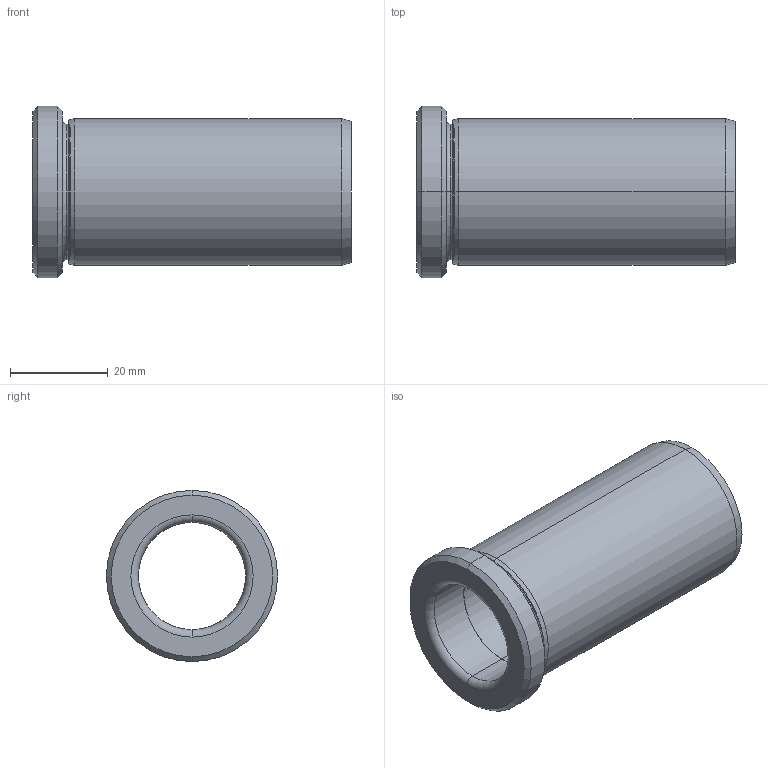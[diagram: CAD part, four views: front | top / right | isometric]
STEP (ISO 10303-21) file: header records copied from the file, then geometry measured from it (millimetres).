
FILE_DESCRIPTION (( 'STEP AP214' ), '1' );
FILE_NAME ('BRCVBG-22X65.STEP', '2020-07-21T12:26:10', ( '' ), ( '' ), 'SwSTEP 2.0', 'SolidWorks 2018', '' );
FILE_SCHEMA (( 'AUTOMOTIVE_DESIGN' ));
Length unit declared in the file: millimetre
Products named in the file (1): BRCVBG-22X65
Bounding box: 65 x 35 x 35 mm (x, y, z)
Volume: 22611.2 mm3; surface area: 11820.9 mm2
Topology: 1 solids, 1 shells, 30 faces, 60 edges, 34 vertices
Faces by surface type: cylinder 10, torus 8, cone 8, plane 4
Entity records: 820 total; most frequent: DIRECTION 164, CARTESIAN_POINT 125, ORIENTED_EDGE 120, AXIS2_PLACEMENT_3D 73, EDGE_CURVE 60, CIRCLE 42, EDGE_LOOP 34, VERTEX_POINT 34
